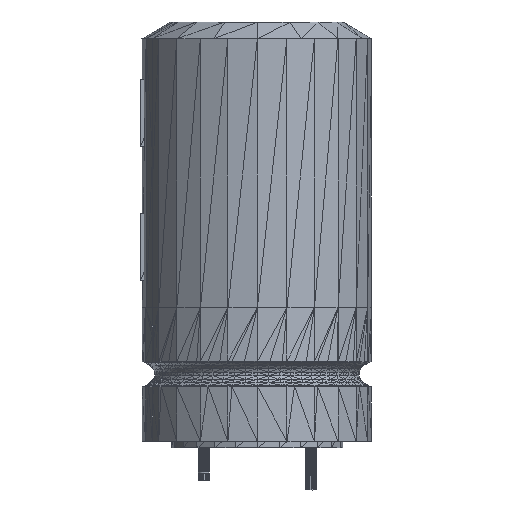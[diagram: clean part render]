
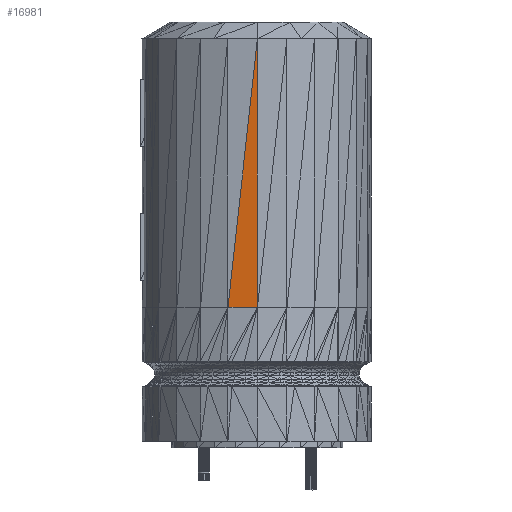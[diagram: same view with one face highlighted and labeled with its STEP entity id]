
A CAD part, front view. The second image highlights one B-rep face of the part: STEP entity #16981.
In plain terms, the highlighted planar face has unit normal (0.131, 0.991, 0).
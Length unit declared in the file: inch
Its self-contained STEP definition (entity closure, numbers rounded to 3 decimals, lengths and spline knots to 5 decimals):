
#13307=CARTESIAN_POINT('',(0.,-0.31898,1.14368));
#13308=VERTEX_POINT('',#13307);
#15077=CARTESIAN_POINT('',(0.,-0.31883,0.39369));
#15078=VERTEX_POINT('',#15077);
#15112=CARTESIAN_POINT('',(0.,-0.31883,0.39369));
#15113=DIRECTION('',(0.,0.,1.));
#15114=VECTOR('',#15113,0.75);
#15115=LINE('',#15112,#15114);
#15116=EDGE_CURVE('',#15078,#13308,#15115,.T.);
#16189=CARTESIAN_POINT('',(-0.0825,-0.30797,0.39369));
#16190=VERTEX_POINT('',#16189);
#16305=CARTESIAN_POINT('',(-0.0825,-0.30797,0.39369));
#16306=DIRECTION('',(0.109,-0.015,0.994));
#16307=VECTOR('',#16306,0.7546);
#16308=LINE('',#16305,#16307);
#16309=EDGE_CURVE('',#16190,#13308,#16308,.T.);
#16961=CARTESIAN_POINT('',(0.,-0.31883,0.39369));
#16962=DIRECTION('',(-0.991,0.131,0.));
#16963=VECTOR('',#16962,0.08321);
#16964=LINE('',#16961,#16963);
#16965=EDGE_CURVE('',#15078,#16190,#16964,.T.);
#16971=CARTESIAN_POINT('',(0.,-0.31883,0.39369));
#16972=DIRECTION('',(0.131,0.991,0.));
#16973=DIRECTION('',(0.991,-0.131,0.));
#16974=AXIS2_PLACEMENT_3D('',#16971,#16972,#16973);
#16975=PLANE('',#16974);
#16976=ORIENTED_EDGE('',*,*,#16965,.T.);
#16977=ORIENTED_EDGE('',*,*,#16309,.T.);
#16978=ORIENTED_EDGE('',*,*,#15116,.F.);
#16979=EDGE_LOOP('',(#16976,#16977,#16978));
#16980=FACE_BOUND('',#16979,.T.);
#16981=ADVANCED_FACE('',(#16980),#16975,.T.);
